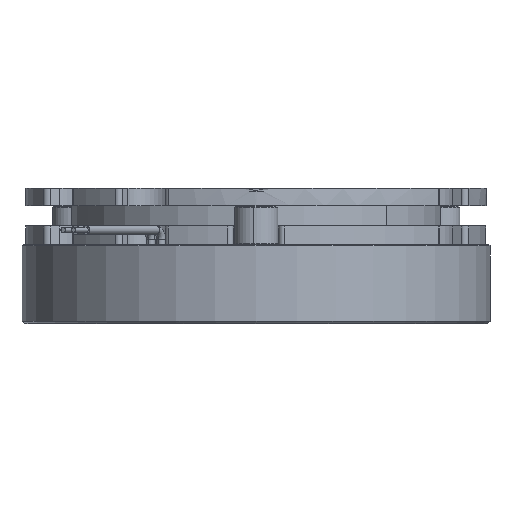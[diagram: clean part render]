
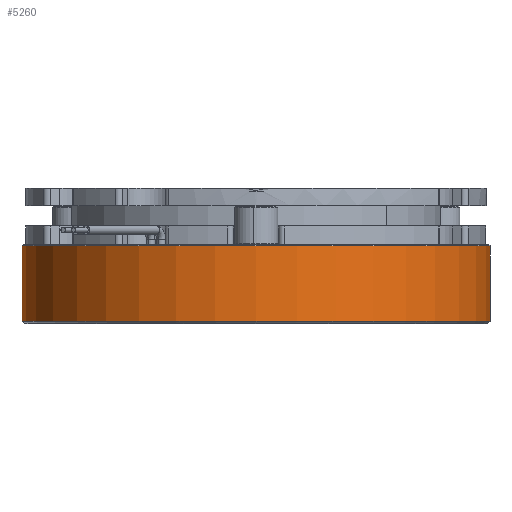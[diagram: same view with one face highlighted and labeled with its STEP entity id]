
A CAD part, front view. The second image highlights one B-rep face of the part: STEP entity #5260.
In plain terms, the highlighted cylindrical face has radius 46.75 mm (diameter 93.5 mm), a partial arc.
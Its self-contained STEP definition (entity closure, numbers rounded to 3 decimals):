
#1006 = AXIS2_PLACEMENT_3D ( 'NONE', #6313, #6314, #6322 ) ;
#1434 = EDGE_CURVE ( 'NONE', #1921, #2127, #3099, .T. ) ;
#1565 = CARTESIAN_POINT ( 'NONE',  ( 46.75, 0., 15.5 ) ) ;
#1643 = CARTESIAN_POINT ( 'NONE',  ( 46.75, 0., 0.5 ) ) ;
#1921 = VERTEX_POINT ( 'NONE', #11290 ) ;
#2124 = VERTEX_POINT ( 'NONE', #1565 ) ;
#2127 = VERTEX_POINT ( 'NONE', #1643 ) ;
#2922 = AXIS2_PLACEMENT_3D ( 'NONE', #3425, #3426, #3427 ) ;
#3099 = CIRCLE ( 'NONE', #9532, 46.75 ) ;
#3425 = CARTESIAN_POINT ( 'NONE',  ( 0., 0., 15.5 ) ) ;
#3426 = DIRECTION ( 'NONE',  ( 0., 0., -1. ) ) ;
#3427 = DIRECTION ( 'NONE',  ( 1., 0., 0. ) ) ;
#3690 = CIRCLE ( 'NONE', #2922, 46.75 ) ;
#3970 = LINE ( 'NONE', #4576, #3973 ) ;
#3972 = LINE ( 'NONE', #4578, #3975 ) ;
#3973 = VECTOR ( 'NONE', #4577, 1000. ) ;
#3975 = VECTOR ( 'NONE', #4579, 1000. ) ;
#4576 = CARTESIAN_POINT ( 'NONE',  ( -46.75, 0., 15.7 ) ) ;
#4577 = DIRECTION ( 'NONE',  ( 0., 0., -1. ) ) ;
#4578 = CARTESIAN_POINT ( 'NONE',  ( 46.75, 0., 15.7 ) ) ;
#4579 = DIRECTION ( 'NONE',  ( 0., 0., -1. ) ) ;
#4942 = CARTESIAN_POINT ( 'NONE',  ( -46.75, 0., 15.5 ) ) ;
#5260 = ADVANCED_FACE ( 'NONE', ( #6854 ), #6862, .T. ) ;
#6313 = CARTESIAN_POINT ( 'NONE',  ( 0., 0., 15.7 ) ) ;
#6314 = DIRECTION ( 'NONE',  ( 0., 0., -1. ) ) ;
#6322 = DIRECTION ( 'NONE',  ( -1., 0., 0. ) ) ;
#6854 = FACE_OUTER_BOUND ( 'NONE', #12905, .T. ) ;
#6862 = CYLINDRICAL_SURFACE ( 'NONE', #1006, 46.75 ) ;
#9532 = AXIS2_PLACEMENT_3D ( 'NONE', #11160, #11158, #11155 ) ;
#10013 = EDGE_CURVE ( 'NONE', #2124, #12544, #3690, .T. ) ;
#11155 = DIRECTION ( 'NONE',  ( 1., 0., 0. ) ) ;
#11158 = DIRECTION ( 'NONE',  ( 0., 0., 1. ) ) ;
#11160 = CARTESIAN_POINT ( 'NONE',  ( 0., 0., 0.5 ) ) ;
#11290 = CARTESIAN_POINT ( 'NONE',  ( -46.75, 0., 0.5 ) ) ;
#11555 = EDGE_CURVE ( 'NONE', #12544, #1921, #3970, .T. ) ;
#11556 = EDGE_CURVE ( 'NONE', #2124, #2127, #3972, .T. ) ;
#12544 = VERTEX_POINT ( 'NONE', #4942 ) ;
#12682 = ORIENTED_EDGE ( 'NONE', *, *, #10013, .T. ) ;
#12694 = ORIENTED_EDGE ( 'NONE', *, *, #11556, .F. ) ;
#12712 = ORIENTED_EDGE ( 'NONE', *, *, #1434, .T. ) ;
#12735 = ORIENTED_EDGE ( 'NONE', *, *, #11555, .T. ) ;
#12905 = EDGE_LOOP ( 'NONE', ( #12694, #12682, #12735, #12712 ) ) ;
